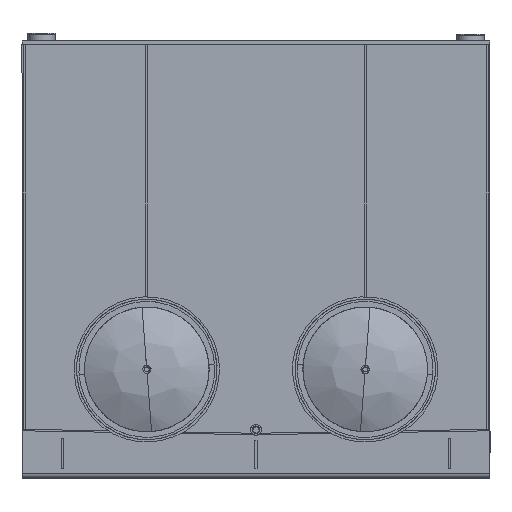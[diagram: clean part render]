
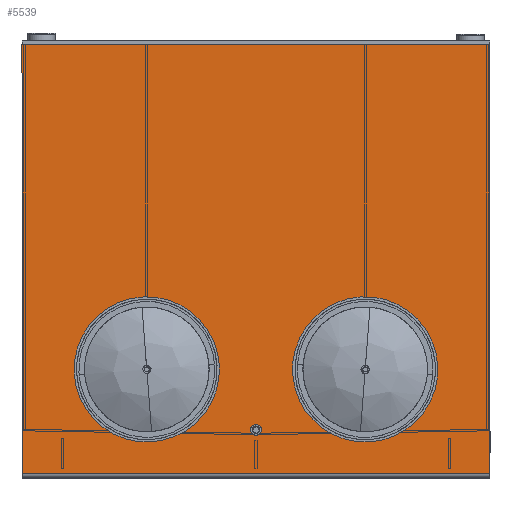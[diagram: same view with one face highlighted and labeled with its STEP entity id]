
A CAD part, top view. The second image highlights one B-rep face of the part: STEP entity #5539.
In plain terms, the highlighted planar face has unit normal (0, 0, 1) as drawn and (-1, 0, 0) by its records, which use the part's own axes.
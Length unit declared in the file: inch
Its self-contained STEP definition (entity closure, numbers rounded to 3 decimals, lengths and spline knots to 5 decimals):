
#60 = DIRECTION ( 'NONE',  ( -1., 0., 0. ) ) ;
#62 = CIRCLE ( 'NONE', #1717, 8. ) ;
#130 = LINE ( 'NONE', #5648, #1452 ) ;
#235 = EDGE_CURVE ( 'NONE', #6199, #643, #4760, .T. ) ;
#267 = CARTESIAN_POINT ( 'NONE',  ( -0.375, 0.125, 0. ) ) ;
#303 = DIRECTION ( 'NONE',  ( -1., 0., 0. ) ) ;
#325 = CARTESIAN_POINT ( 'NONE',  ( -0.375, 5.75, 30.72 ) ) ;
#356 = CARTESIAN_POINT ( 'NONE',  ( -0.375, 13.5, 36. ) ) ;
#450 = VERTEX_POINT ( 'NONE', #4399 ) ;
#543 = VERTEX_POINT ( 'NONE', #267 ) ;
#561 = CARTESIAN_POINT ( 'NONE',  ( -0.375, 0., 60. ) ) ;
#614 = CARTESIAN_POINT ( 'NONE',  ( -0.375, 13.5, 16. ) ) ;
#617 = AXIS2_PLACEMENT_3D ( 'NONE', #6136, #666, #5511 ) ;
#643 = VERTEX_POINT ( 'NONE', #6935 ) ;
#666 = DIRECTION ( 'NONE',  ( -1., 0., 0. ) ) ;
#684 = DIRECTION ( 'NONE',  ( 0., 0., 1. ) ) ;
#744 = LINE ( 'NONE', #1409, #7711 ) ;
#827 = EDGE_LOOP ( 'NONE', ( #7597, #6529 ) ) ;
#831 = AXIS2_PLACEMENT_3D ( 'NONE', #1971, #2410, #684 ) ;
#947 = DIRECTION ( 'NONE',  ( 0., 0., 1. ) ) ;
#1003 = CARTESIAN_POINT ( 'NONE',  ( -0.375, 13.5, 52. ) ) ;
#1023 = ORIENTED_EDGE ( 'NONE', *, *, #5446, .F. ) ;
#1155 = PLANE ( 'NONE',  #5019 ) ;
#1334 = ORIENTED_EDGE ( 'NONE', *, *, #6166, .F. ) ;
#1409 = CARTESIAN_POINT ( 'NONE',  ( -0.375, 0.125, 60. ) ) ;
#1452 = VECTOR ( 'NONE', #7503, 39.37008 ) ;
#1632 = VERTEX_POINT ( 'NONE', #2631 ) ;
#1651 = CARTESIAN_POINT ( 'NONE',  ( -0.375, 13.5, 16. ) ) ;
#1705 = CARTESIAN_POINT ( 'NONE',  ( -0.375, 5.75, 30. ) ) ;
#1717 = AXIS2_PLACEMENT_3D ( 'NONE', #1651, #4066, #2334 ) ;
#1766 = ORIENTED_EDGE ( 'NONE', *, *, #235, .T. ) ;
#1903 = VERTEX_POINT ( 'NONE', #325 ) ;
#1971 = CARTESIAN_POINT ( 'NONE',  ( -0.375, 5.75, 30. ) ) ;
#2199 = EDGE_CURVE ( 'NONE', #5772, #5230, #2778, .T. ) ;
#2329 = DIRECTION ( 'NONE',  ( -1., 0., 0. ) ) ;
#2334 = DIRECTION ( 'NONE',  ( 0., 0., 1. ) ) ;
#2359 = CIRCLE ( 'NONE', #7658, 8. ) ;
#2374 = DIRECTION ( 'NONE',  ( 0., 0., 1. ) ) ;
#2377 = AXIS2_PLACEMENT_3D ( 'NONE', #1705, #303, #947 ) ;
#2410 = DIRECTION ( 'NONE',  ( -1., 0., 0. ) ) ;
#2498 = DIRECTION ( 'NONE',  ( 0., 0., 1. ) ) ;
#2631 = CARTESIAN_POINT ( 'NONE',  ( -0.375, 5.75, 29.28 ) ) ;
#2778 = CIRCLE ( 'NONE', #617, 8. ) ;
#2834 = EDGE_CURVE ( 'NONE', #6913, #543, #744, .T. ) ;
#2860 = VECTOR ( 'NONE', #7609, 39.37008 ) ;
#2869 = CIRCLE ( 'NONE', #831, 0.72 ) ;
#2980 = ORIENTED_EDGE ( 'NONE', *, *, #2834, .F. ) ;
#3007 = DIRECTION ( 'NONE',  ( 1., 0., 0. ) ) ;
#3036 = CARTESIAN_POINT ( 'NONE',  ( -0.375, 13.5, 8. ) ) ;
#3158 = FACE_BOUND ( 'NONE', #827, .T. ) ;
#3308 = ORIENTED_EDGE ( 'NONE', *, *, #4540, .T. ) ;
#3751 = FACE_BOUND ( 'NONE', #4300, .T. ) ;
#3798 = CARTESIAN_POINT ( 'NONE',  ( -0.375, 0., 60. ) ) ;
#3941 = CARTESIAN_POINT ( 'NONE',  ( -0.375, 0.125, 60. ) ) ;
#4066 = DIRECTION ( 'NONE',  ( -1., 0., 0. ) ) ;
#4300 = EDGE_LOOP ( 'NONE', ( #7755, #4326 ) ) ;
#4326 = ORIENTED_EDGE ( 'NONE', *, *, #4913, .F. ) ;
#4399 = CARTESIAN_POINT ( 'NONE',  ( -0.375, 13.5, 24. ) ) ;
#4540 = EDGE_CURVE ( 'NONE', #643, #543, #130, .T. ) ;
#4740 = VERTEX_POINT ( 'NONE', #3036 ) ;
#4760 = LINE ( 'NONE', #5248, #5467 ) ;
#4777 = CARTESIAN_POINT ( 'NONE',  ( -0.375, 13.5, 44. ) ) ;
#4802 = DIRECTION ( 'NONE',  ( 0., 0., -1. ) ) ;
#4886 = EDGE_CURVE ( 'NONE', #450, #4740, #62, .T. ) ;
#4913 = EDGE_CURVE ( 'NONE', #4740, #450, #6646, .T. ) ;
#4972 = FACE_OUTER_BOUND ( 'NONE', #5197, .T. ) ;
#5019 = AXIS2_PLACEMENT_3D ( 'NONE', #561, #3007, #5419 ) ;
#5197 = EDGE_LOOP ( 'NONE', ( #3308, #2980, #6410, #1766 ) ) ;
#5230 = VERTEX_POINT ( 'NONE', #1003 ) ;
#5248 = CARTESIAN_POINT ( 'NONE',  ( -0.375, 55.125, 60. ) ) ;
#5419 = DIRECTION ( 'NONE',  ( 0., 0., -1. ) ) ;
#5446 = EDGE_CURVE ( 'NONE', #1903, #1632, #2869, .T. ) ;
#5467 = VECTOR ( 'NONE', #4802, 39.37008 ) ;
#5511 = DIRECTION ( 'NONE',  ( 0., 0., 1. ) ) ;
#5539 = ADVANCED_FACE ( 'NONE', ( #6744, #3751, #3158, #4972 ), #1155, .F. ) ;
#5648 = CARTESIAN_POINT ( 'NONE',  ( -0.375, 0., 0. ) ) ;
#5695 = DIRECTION ( 'NONE',  ( 0., 0., -1. ) ) ;
#5772 = VERTEX_POINT ( 'NONE', #356 ) ;
#6136 = CARTESIAN_POINT ( 'NONE',  ( -0.375, 13.5, 44. ) ) ;
#6166 = EDGE_CURVE ( 'NONE', #1632, #1903, #7677, .T. ) ;
#6199 = VERTEX_POINT ( 'NONE', #6413 ) ;
#6410 = ORIENTED_EDGE ( 'NONE', *, *, #7647, .F. ) ;
#6413 = CARTESIAN_POINT ( 'NONE',  ( -0.375, 55.125, 60. ) ) ;
#6529 = ORIENTED_EDGE ( 'NONE', *, *, #2199, .F. ) ;
#6646 = CIRCLE ( 'NONE', #7405, 8. ) ;
#6744 = FACE_BOUND ( 'NONE', #7612, .T. ) ;
#6871 = LINE ( 'NONE', #3798, #2860 ) ;
#6913 = VERTEX_POINT ( 'NONE', #3941 ) ;
#6935 = CARTESIAN_POINT ( 'NONE',  ( -0.375, 55.125, 0. ) ) ;
#7405 = AXIS2_PLACEMENT_3D ( 'NONE', #614, #60, #2498 ) ;
#7483 = EDGE_CURVE ( 'NONE', #5230, #5772, #2359, .T. ) ;
#7503 = DIRECTION ( 'NONE',  ( 0., -1., 0. ) ) ;
#7597 = ORIENTED_EDGE ( 'NONE', *, *, #7483, .F. ) ;
#7609 = DIRECTION ( 'NONE',  ( 0., -1., 0. ) ) ;
#7612 = EDGE_LOOP ( 'NONE', ( #1023, #1334 ) ) ;
#7647 = EDGE_CURVE ( 'NONE', #6199, #6913, #6871, .T. ) ;
#7658 = AXIS2_PLACEMENT_3D ( 'NONE', #4777, #2329, #2374 ) ;
#7677 = CIRCLE ( 'NONE', #2377, 0.72 ) ;
#7711 = VECTOR ( 'NONE', #5695, 39.37008 ) ;
#7755 = ORIENTED_EDGE ( 'NONE', *, *, #4886, .F. ) ;
